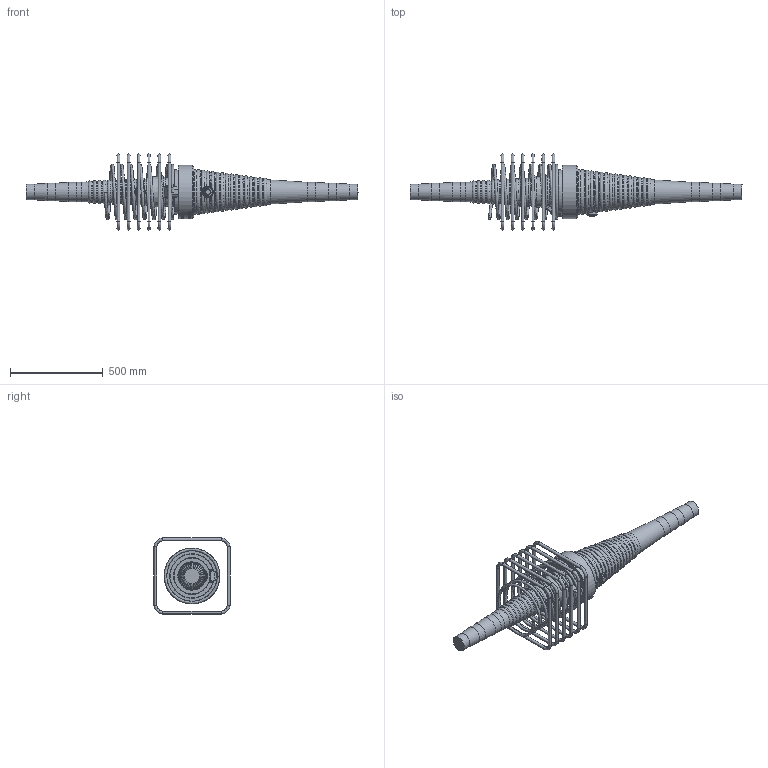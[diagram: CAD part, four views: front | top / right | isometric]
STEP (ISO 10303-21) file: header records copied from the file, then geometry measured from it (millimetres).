
FILE_DESCRIPTION(/* description */ (''),/* implementation_level */ '2;1');
FILE_NAME(/* name */ 'Z:\04 Publications\05 Give-out\BBR\6_3D_Models\BBR VT CONA CMI\BBR VT CONA CMI BT\01306\BBR VT CONA CMI BT 1306_Couler K Assembly_CS-34,28.stp',/* time_stamp */ '2017-05-05T08:47:37+02:00',/* author */ ('IP'),/* organization */ (''),/* preprocessor_version */ 'ST-DEVELOPER v16.1',/* originating_system */ 'Autodesk Inventor 2016',/* authorisation */ '');
FILE_SCHEMA (('AUTOMOTIVE_DESIGN { 1 0 10303 214 3 1 1 }'));
Products named in the file (1): BBR VT CONA CMI BT 1306_Couler K Assembly_CS-34,28
Bounding box: 1790.13 x 410 x 410 mm (x, y, z)
Volume: 35257977.4 mm3; surface area: 1723935.9 mm2
Topology: 8 solids, 8 shells, 1009 faces, 2565 edges, 1621 vertices
Faces by surface type: bspline 447, plane 269, torus 132, cylinder 118, cone 33, sphere 10
Full cylindrical faces by diameter (mm): 16 x24, 34 x2, 57 x2, 84 x2, 94 x2, 104 x2, 192.529 x1, 197.205 x1, 273 x1, 286 x1, 290 x1
Entity records: 44267 total; most frequent: CARTESIAN_POINT 23008, ORIENTED_EDGE 4730, DIRECTION 3176, EDGE_CURVE 2365, VERTEX_POINT 1612, EDGE_LOOP 1263, AXIS2_PLACEMENT_3D 1140, FACE_OUTER_BOUND 1009
